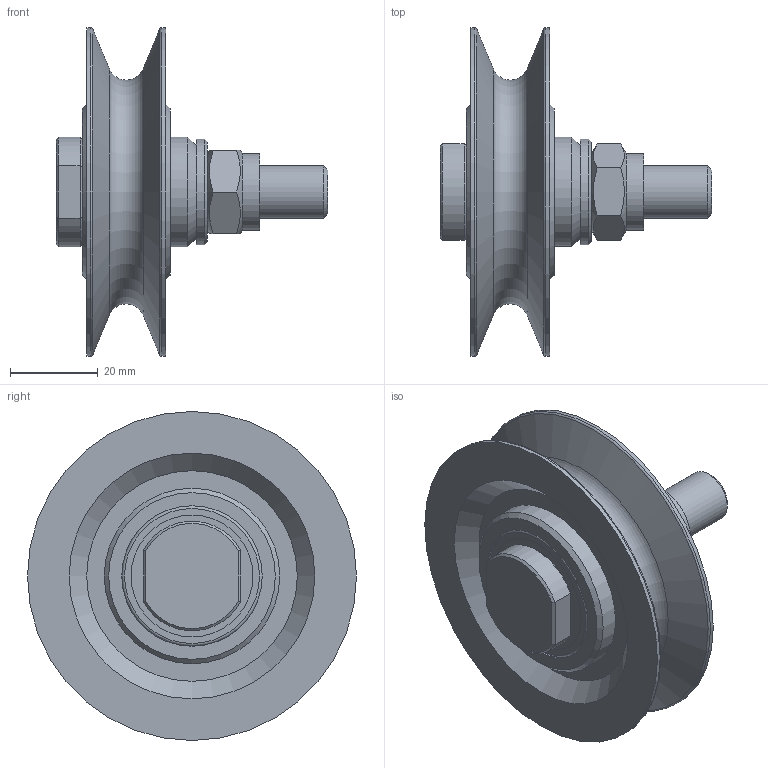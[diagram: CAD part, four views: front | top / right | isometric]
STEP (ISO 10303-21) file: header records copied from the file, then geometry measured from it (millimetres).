
FILE_DESCRIPTION(/* description */ ('Seilrolle ø75 feststehende Achse'),/* implementation_level */ '2;1');
FILE_NAME(/* name */ 'Z:\Workspace\03 Seilrollen\1.408 K Seilrollen feststehende Achse Kugellager\1.408.02 K Seilrolle ø75 feststehende Achse KL\1.408.02 K Seilrolle ø75 feststehende Achse.stp',/* time_stamp */ '2021-10-11T09:05:53+02:00',/* author */ ('cad-user'),/* organization */ (''),/* preprocessor_version */ 'ST-DEVELOPER v18',/* originating_system */ 'Autodesk Inventor 2020',/* authorisation */ '');
FILE_SCHEMA (('AUTOMOTIVE_DESIGN { 1 0 10303 214 3 1 1 }'));
Length unit declared in the file: millimetre
Products named in the file (13): 1.408.02 K Seilrolle ø75 feststehende Achse; 1.402.02 Seilrolle ø75 Kugellager komplett; 1.402.02 Seilrolle ø75 Kugellager; DIN625 - 6201-2RS; din625_-_6201-2rs_0_05; din625_-_6201-2rs_0_04; din625_-_6201-2rs_0_03; din625_-_6201-2rs_0_02; din625_-_6201-2rs_0_01; 1.408.02.01 Schraube; 1.408.02.02 Scheibe; DIN 125-1 - B 13; DIN 985 - M12
Assembly tree (13 placements, depth 4):
  1.408.02 K Seilrolle ø75 feststehende Achse
    1.402.02 Seilrolle ø75 Kugellager komplett
      1.402.02 Seilrolle ø75 Kugellager
      DIN625 - 6201-2RS  x2
        din625_-_6201-2rs_0_05
        din625_-_6201-2rs_0_04
        din625_-_6201-2rs_0_03
        din625_-_6201-2rs_0_02
        din625_-_6201-2rs_0_01
    1.408.02.01 Schraube
    1.408.02.02 Scheibe
    DIN 125-1 - B 13
    DIN 985 - M12
Bounding box: 62 x 75 x 75 mm (x, y, z)
Volume: 57698.4 mm3; surface area: 36665.1 mm2
Topology: 15 solids, 15 shells, 149 faces, 385 edges, 275 vertices
Faces by surface type: plane 51, cylinder 42, torus 27, cone 17, sphere 12
Full cylindrical faces by diameter (mm): 2.459 x1, 12 x3, 13 x2, 16.1 x8, 17.4 x1, 18 x4, 24 x1, 25 x1, 26 x4, 27.8 x8, 32 x3, 40 x2, 75 x2
Entity records: 4133 total; most frequent: CARTESIAN_POINT 1023, DIRECTION 619, ORIENTED_EDGE 502, AXIS2_PLACEMENT_3D 281, EDGE_CURVE 251, VERTEX_POINT 185, CIRCLE 150, EDGE_LOOP 142
